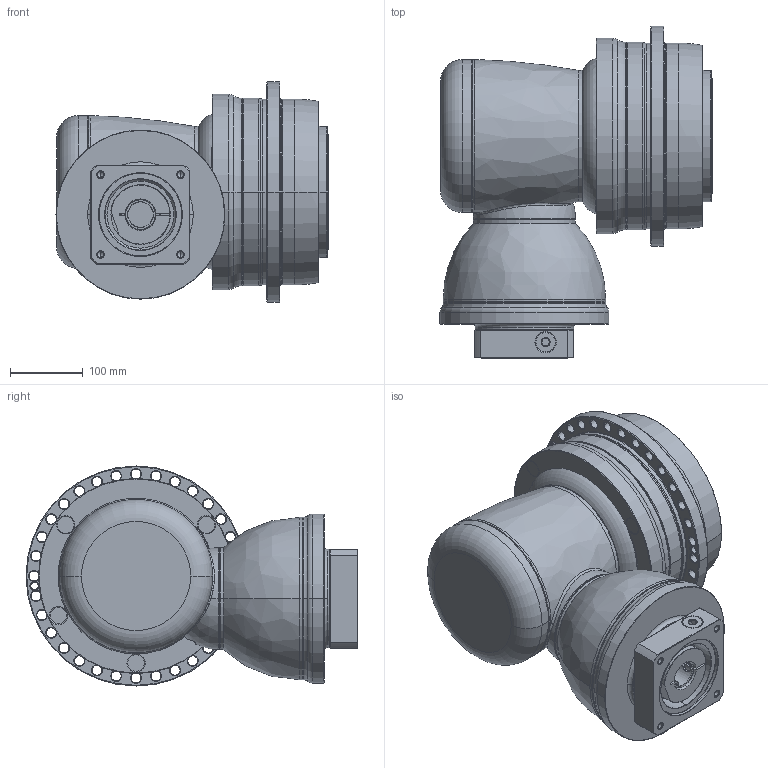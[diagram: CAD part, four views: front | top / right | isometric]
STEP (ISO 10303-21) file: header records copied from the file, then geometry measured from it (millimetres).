
FILE_DESCRIPTION((''),'2;1');
FILE_NAME('APK255_2ST_35-P0409800201_ASM','2018-06-14T',('D00080'),(''),'PRO/ENGINEER BY PARAMETRIC TECHNOLOGY CORPORATION, 2008170','PRO/ENGINEER BY PARAMETRIC TECHNOLOGY CORPORATION, 2008170','');
FILE_SCHEMA(('CONFIG_CONTROL_DESIGN'));
Length unit declared in the file: millimetre
Products named in the file (13): P1008600002; P1802710001; P0278701003; P0359701103; P1211700001; P1315600001; P1007601001; P1318610101; P0503800012; P0912601001; P0409800201; 21711422019; APK255_2ST_35-P0409800201_ASM
Assembly tree (12 placements, depth 2):
  APK255_2ST_35-P0409800201_ASM
    P1008600002
    P1802710001
    P0278701003
    P0359701103
    P1211700001
    P1315600001
    P1007601001
    P1318610101
    P0503800012
    P0912601001
    P0409800201
    21711422019
Bounding box: 373.5 x 455.5 x 302 mm (x, y, z)
Volume: 20772649.4 mm3; surface area: 1358606.5 mm2
Topology: 13 solids, 36 shells, 864 faces, 2020 edges, 1215 vertices
Faces by surface type: cylinder 341, cone 268, plane 137, torus 85, bspline 31, sphere 2
Entity records: 31331 total; most frequent: CARTESIAN_POINT 10781, DIRECTION 4743, ORIENTED_EDGE 3870, AXIS2_PLACEMENT_3D 2034, EDGE_CURVE 1982, VERTEX_POINT 1215, CIRCLE 1164, EDGE_LOOP 1019
